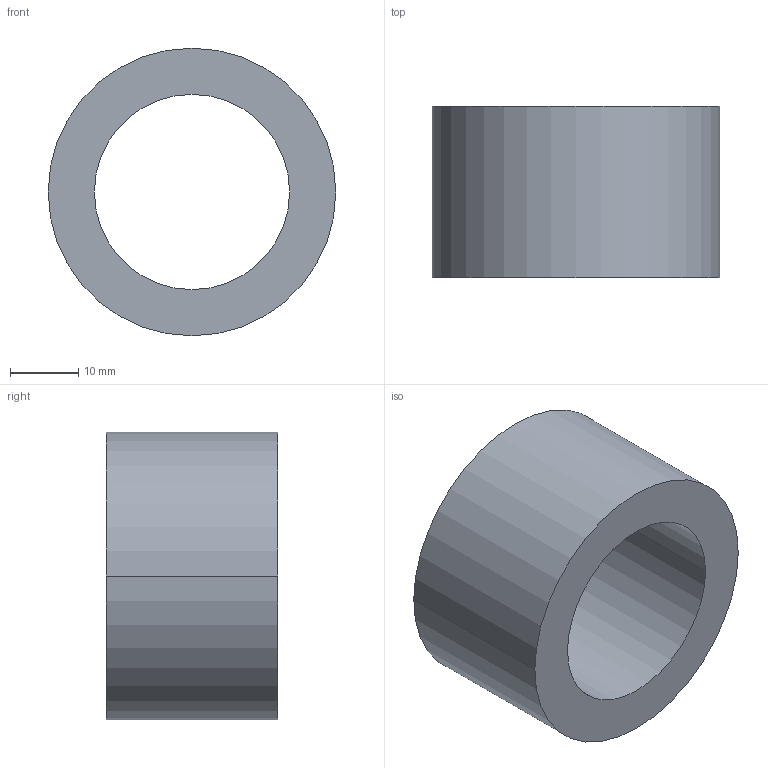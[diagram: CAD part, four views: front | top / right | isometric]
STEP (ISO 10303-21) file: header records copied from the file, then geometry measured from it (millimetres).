
FILE_DESCRIPTION (( 'STEP AP203' ), '1' );
FILE_NAME ('30800.WPP42J28.5.step', '2019-01-23T22:50:44', ( '' ), ( '' ), 'SwSTEP 2.0', 'SolidWorks 2017', '' );
FILE_SCHEMA (( 'CONFIG_CONTROL_DESIGN' ));
Length unit declared in the file: millimetre
Products named in the file (1): 30800.WPP42J28.5
Bounding box: 42 x 25 x 42 mm (x, y, z)
Volume: 18506.5 mm3; surface area: 6920.8 mm2
Topology: 1 solids, 1 shells, 8 faces, 16 edges, 10 vertices
Faces by surface type: cylinder 4, torus 2, plane 2
Entity records: 297 total; most frequent: DIRECTION 46, CARTESIAN_POINT 35, ORIENTED_EDGE 32, AXIS2_PLACEMENT_3D 21, EDGE_CURVE 16, CIRCLE 12, EDGE_LOOP 10, VERTEX_POINT 10
